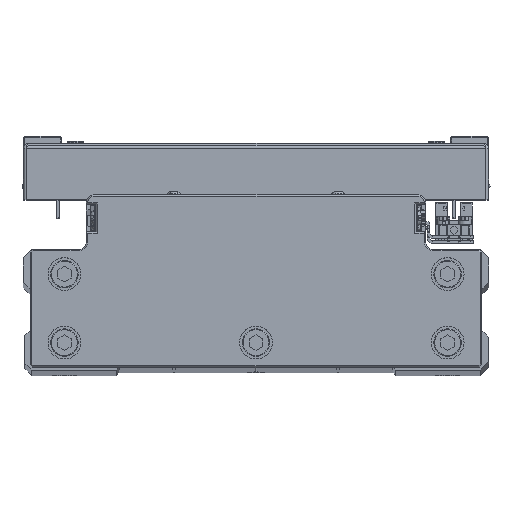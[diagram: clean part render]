
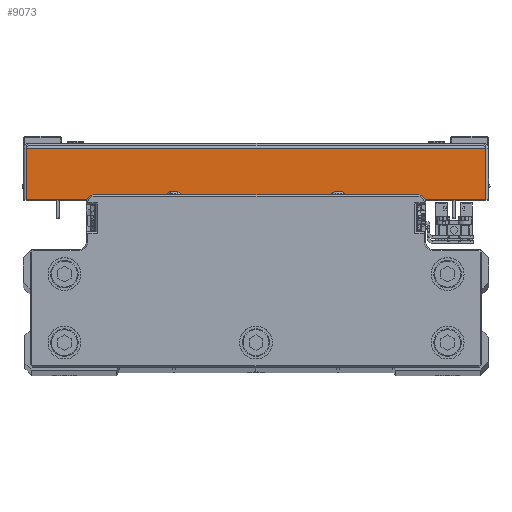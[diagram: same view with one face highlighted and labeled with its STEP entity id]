
A CAD part, top view. The second image highlights one B-rep face of the part: STEP entity #9073.
In plain terms, the highlighted planar face has unit normal (0, 0, 1) as drawn and (1, 0, 0) by its records, which use the part's own axes.
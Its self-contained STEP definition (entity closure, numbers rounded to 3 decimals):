
#1286 = EDGE_LOOP ( 'NONE', ( #25672, #14333, #39613, #4757 ) ) ;
#1491 = VECTOR ( 'NONE', #38834, 1000. ) ;
#1662 = PLANE ( 'NONE',  #41850 ) ;
#4757 = ORIENTED_EDGE ( 'NONE', *, *, #10209, .F. ) ;
#4774 = EDGE_CURVE ( 'NONE', #12878, #40708, #30502, .T. ) ;
#8350 = CARTESIAN_POINT ( 'NONE',  ( 110., 0., -83.929 ) ) ;
#9073 = ADVANCED_FACE ( 'NONE', ( #33201 ), #1662, .F. ) ;
#10209 = EDGE_CURVE ( 'NONE', #45312, #40708, #10744, .T. ) ;
#10405 = CARTESIAN_POINT ( 'NONE',  ( 110., 1., 85. ) ) ;
#10744 = LINE ( 'NONE', #24794, #1491 ) ;
#12878 = VERTEX_POINT ( 'NONE', #37043 ) ;
#13002 = DIRECTION ( 'NONE',  ( 0., 0., 1. ) ) ;
#14333 = ORIENTED_EDGE ( 'NONE', *, *, #35172, .T. ) ;
#14951 = VERTEX_POINT ( 'NONE', #24198 ) ;
#15715 = CARTESIAN_POINT ( 'NONE',  ( 110., 0., 0. ) ) ;
#21229 = EDGE_CURVE ( 'NONE', #14951, #45312, #41963, .T. ) ;
#22393 = DIRECTION ( 'NONE',  ( 0., 1., 0. ) ) ;
#24036 = CARTESIAN_POINT ( 'NONE',  ( 110., 1., 83.929 ) ) ;
#24198 = CARTESIAN_POINT ( 'NONE',  ( 110., 1., -83.929 ) ) ;
#24449 = DIRECTION ( 'NONE',  ( 0., 0., 1. ) ) ;
#24794 = CARTESIAN_POINT ( 'NONE',  ( 110., 0., 83.929 ) ) ;
#25672 = ORIENTED_EDGE ( 'NONE', *, *, #21229, .F. ) ;
#27421 = VECTOR ( 'NONE', #13002, 1000. ) ;
#29300 = LINE ( 'NONE', #8350, #45354 ) ;
#29753 = DIRECTION ( 'NONE',  ( -1., 0., 0. ) ) ;
#30502 = LINE ( 'NONE', #44548, #27421 ) ;
#33201 = FACE_OUTER_BOUND ( 'NONE', #1286, .T. ) ;
#34801 = CARTESIAN_POINT ( 'NONE',  ( 110., 19.5, 83.929 ) ) ;
#35172 = EDGE_CURVE ( 'NONE', #14951, #12878, #29300, .T. ) ;
#37043 = CARTESIAN_POINT ( 'NONE',  ( 110., 19.5, -83.929 ) ) ;
#38834 = DIRECTION ( 'NONE',  ( 0., 1., 0. ) ) ;
#39537 = VECTOR ( 'NONE', #24449, 1000. ) ;
#39613 = ORIENTED_EDGE ( 'NONE', *, *, #4774, .T. ) ;
#40708 = VERTEX_POINT ( 'NONE', #34801 ) ;
#41850 = AXIS2_PLACEMENT_3D ( 'NONE', #15715, #29753, #43798 ) ;
#41963 = LINE ( 'NONE', #10405, #39537 ) ;
#43798 = DIRECTION ( 'NONE',  ( 0., -1., 0. ) ) ;
#44548 = CARTESIAN_POINT ( 'NONE',  ( 110., 19.5, 0. ) ) ;
#45312 = VERTEX_POINT ( 'NONE', #24036 ) ;
#45354 = VECTOR ( 'NONE', #22393, 1000. ) ;
